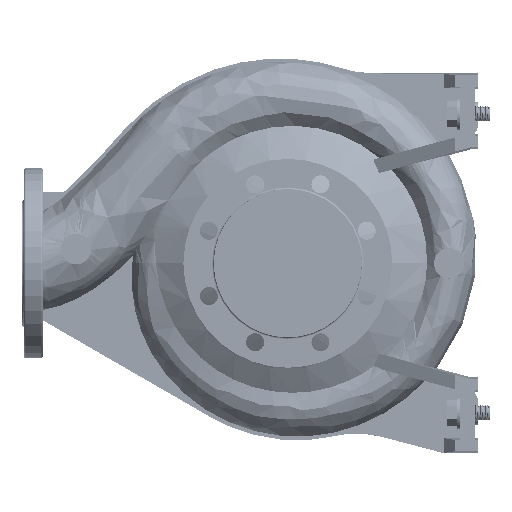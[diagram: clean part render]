
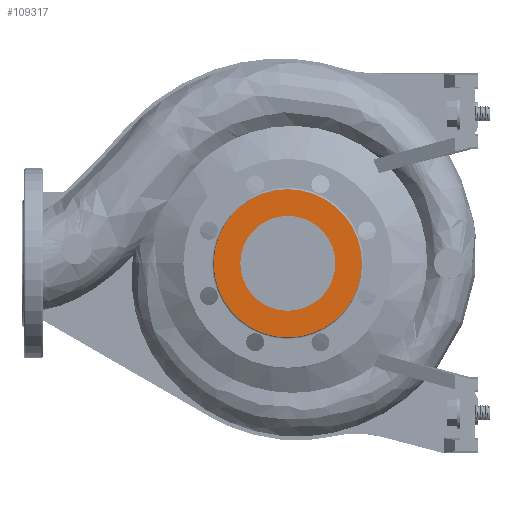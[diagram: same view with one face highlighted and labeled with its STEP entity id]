
A CAD part, left-side view. The second image highlights one B-rep face of the part: STEP entity #109317.
In plain terms, the highlighted planar face has unit normal (-1, 0, 0).
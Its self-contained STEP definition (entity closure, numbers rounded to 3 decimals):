
#434 = CIRCLE ( 'NONE', #165902, 50. ) ;
#3289 = DIRECTION ( 'NONE',  ( -1., 0., 0. ) ) ;
#7812 = ORIENTED_EDGE ( 'NONE', *, *, #104827, .T. ) ;
#24017 = CIRCLE ( 'NONE', #30301, 50. ) ;
#26651 = DIRECTION ( 'NONE',  ( -1., 0., 0. ) ) ;
#29617 = ORIENTED_EDGE ( 'NONE', *, *, #116217, .F. ) ;
#30301 = AXIS2_PLACEMENT_3D ( 'NONE', #90306, #3289, #151860 ) ;
#34211 = FACE_OUTER_BOUND ( 'NONE', #175376, .T. ) ;
#39659 = CARTESIAN_POINT ( 'NONE',  ( -125., 0., 0. ) ) ;
#40664 = FACE_BOUND ( 'NONE', #144754, .T. ) ;
#48973 = EDGE_CURVE ( 'NONE', #86420, #152366, #434, .T. ) ;
#49969 = AXIS2_PLACEMENT_3D ( 'NONE', #39659, #99223, #158846 ) ;
#52780 = ORIENTED_EDGE ( 'NONE', *, *, #147737, .T. ) ;
#56785 = VERTEX_POINT ( 'NONE', #96199 ) ;
#63543 = DIRECTION ( 'NONE',  ( 1., 0., 0. ) ) ;
#68100 = CARTESIAN_POINT ( 'NONE',  ( -125., 50.001, -50.001 ) ) ;
#70608 = CARTESIAN_POINT ( 'NONE',  ( -125., 0., 0. ) ) ;
#71349 = CARTESIAN_POINT ( 'NONE',  ( -125., 0., 50. ) ) ;
#86420 = VERTEX_POINT ( 'NONE', #112478 ) ;
#90062 = ORIENTED_EDGE ( 'NONE', *, *, #48973, .F. ) ;
#90306 = CARTESIAN_POINT ( 'NONE',  ( -125., 0., 0. ) ) ;
#91551 = AXIS2_PLACEMENT_3D ( 'NONE', #167023, #152341, #165070 ) ;
#93655 = CIRCLE ( 'NONE', #49969, 78. ) ;
#94327 = AXIS2_PLACEMENT_3D ( 'NONE', #68100, #63543, #100250 ) ;
#96199 = CARTESIAN_POINT ( 'NONE',  ( -125., 78., 0. ) ) ;
#99223 = DIRECTION ( 'NONE',  ( -1., 0., 0. ) ) ;
#100250 = DIRECTION ( 'NONE',  ( 0., 0., 1. ) ) ;
#104827 = EDGE_CURVE ( 'NONE', #191339, #56785, #93655, .T. ) ;
#109317 = ADVANCED_FACE ( 'NONE', ( #40664, #34211 ), #145236, .F. ) ;
#112478 = CARTESIAN_POINT ( 'NONE',  ( -125., 0., -50. ) ) ;
#116217 = EDGE_CURVE ( 'NONE', #152366, #86420, #24017, .T. ) ;
#128890 = CIRCLE ( 'NONE', #91551, 78. ) ;
#144754 = EDGE_LOOP ( 'NONE', ( #29617, #90062 ) ) ;
#145236 = PLANE ( 'NONE',  #94327 ) ;
#147737 = EDGE_CURVE ( 'NONE', #56785, #191339, #128890, .T. ) ;
#151860 = DIRECTION ( 'NONE',  ( 0., 0., 1. ) ) ;
#152341 = DIRECTION ( 'NONE',  ( -1., 0., 0. ) ) ;
#152366 = VERTEX_POINT ( 'NONE', #71349 ) ;
#158846 = DIRECTION ( 'NONE',  ( 0., -1., 0. ) ) ;
#165070 = DIRECTION ( 'NONE',  ( 0., -1., 0. ) ) ;
#165902 = AXIS2_PLACEMENT_3D ( 'NONE', #70608, #26651, #176135 ) ;
#167023 = CARTESIAN_POINT ( 'NONE',  ( -125., 0., 0. ) ) ;
#169550 = CARTESIAN_POINT ( 'NONE',  ( -125., -78., 0. ) ) ;
#175376 = EDGE_LOOP ( 'NONE', ( #7812, #52780 ) ) ;
#176135 = DIRECTION ( 'NONE',  ( 0., 0., 1. ) ) ;
#191339 = VERTEX_POINT ( 'NONE', #169550 ) ;
